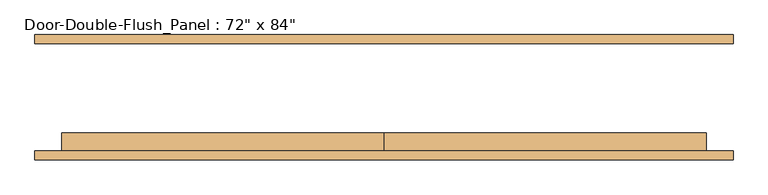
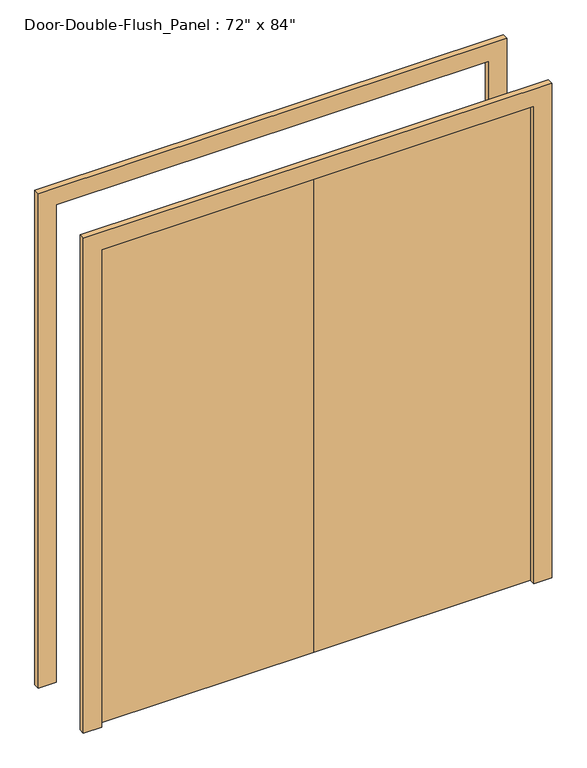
"""IFC4 building model written with IfcOpenShell, lengths in millimetres: door geometry."""

from ifc_helpers import new_model, si_unit, frame, origin, origin_with_axes, place, context, project, spatial, polyline, outline, extrude, source, transform, mapped, element, save


def door_a672a27a(model_context):
    return source(origin(), model_context, "Body", "SweptSolid", [
        extrude(outline(polyline([(2133.6, -914.4), (2133.6, 914.4), (0.0, 914.4), (0.0, 990.6), (2209.8, 990.6), (2209.8, -990.6), (0.0, -990.6), (0.0, -914.4), (2133.6, -914.4)])), frame((0.0, 152.4, 0.0), z_axis=(0.0, 1.0, 0.0), x_axis=(0.0, 0.0, 1.0)), (0.0, 0.0, 1.0), 25.4),
        extrude(outline(polyline([(2133.6, -914.4), (2133.6, 914.4), (0.0, 914.4), (0.0, 990.6), (2209.8, 990.6), (2209.8, -990.6), (0.0, -990.6), (0.0, -914.4), (2133.6, -914.4)])), frame((0.0, -177.8, 0.0), z_axis=(0.0, 1.0, 0.0), x_axis=(0.0, 0.0, 1.0)), (0.0, 0.0, 1.0), 25.4),
        extrude(outline(polyline([(0.0, -152.4), (0.0, -101.6), (914.4, -101.6), (914.4, -152.4), (0.0, -152.4)])), origin_with_axes(), (0.0, 0.0, 1.0), 2133.6),
        extrude(outline(polyline([(-914.4, -152.4), (-914.4, -101.6), (0.0, -101.6), (0.0, -152.4), (-914.4, -152.4)])), origin_with_axes(), (0.0, 0.0, 1.0), 2133.6),
    ])


if __name__ == "__main__":
    model = new_model("IFC4")
    model_context = context("Model", 3, world=origin())
    ifc_project = project(units=[si_unit("LENGTHUNIT", "METRE", prefix="MILLI")], contexts=[model_context])
    site = spatial("IfcSite", under=ifc_project)
    building = spatial("IfcBuilding", under=site)
    placement = place(None, origin())
    door_shape = door_a672a27a(model_context)
    element("IfcDoor", 1, ObjectType="Door-Double-Flush_Panel : 72\" x 84\"", at=placement, inside=building, context=model_context, shape_type="MappedRepresentation", body=[
        mapped(door_shape, transform((0.0, 0.0, 0.0), x_axis=(1.0, 0.0, 0.0), y_axis=(0.0, 1.0, 0.0), z_axis=(0.0, 0.0, 1.0))),
    ])
    save(model, "model.ifc")
